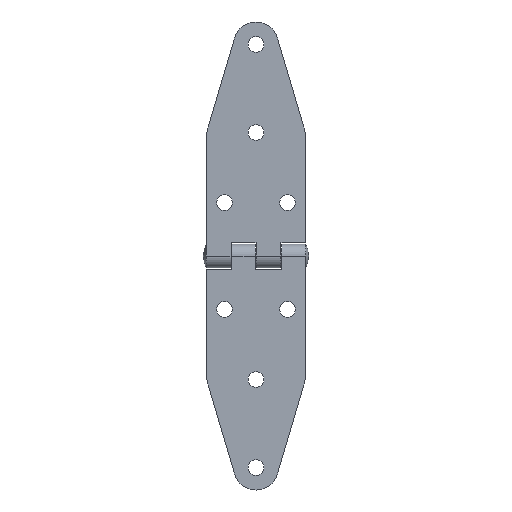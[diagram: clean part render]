
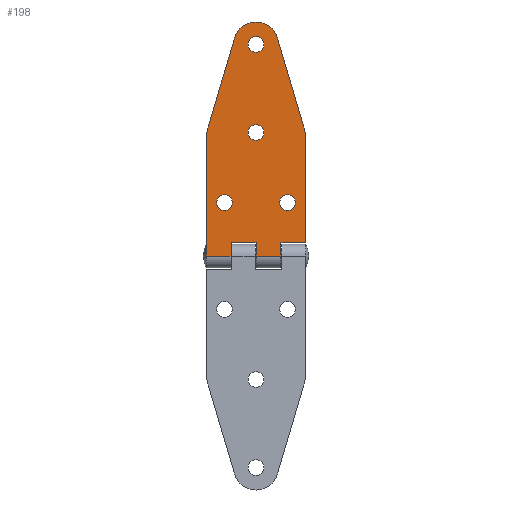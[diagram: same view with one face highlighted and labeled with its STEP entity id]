
A CAD part, front view. The second image highlights one B-rep face of the part: STEP entity #198.
In plain terms, the highlighted planar face has unit normal (0, -1, 0).
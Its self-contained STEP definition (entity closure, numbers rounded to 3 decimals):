
#198=ADVANCED_FACE('',(#364,#365,#366,#367,#368),#369,.T.);
#364=FACE_OUTER_BOUND('',#535,.T.);
#365=FACE_BOUND('',#536,.T.);
#366=FACE_BOUND('',#537,.T.);
#367=FACE_BOUND('',#538,.T.);
#368=FACE_BOUND('',#539,.T.);
#369=PLANE('',#540);
#535=EDGE_LOOP('',(#1181,#1182,#1183,#1184,#1185,#1186,#1187,#1188,#1189,#1190,#1191,#1192,#1193,#1194,#1195));
#536=EDGE_LOOP('',(#1196,#1197));
#537=EDGE_LOOP('',(#1198,#1199));
#538=EDGE_LOOP('',(#1200,#1201));
#539=EDGE_LOOP('',(#1202,#1203));
#540=AXIS2_PLACEMENT_3D('',#1204,#1205,#1206);
#1181=ORIENTED_EDGE('',*,*,#1390,.T.);
#1182=ORIENTED_EDGE('',*,*,#1399,.T.);
#1183=ORIENTED_EDGE('',*,*,#1441,.T.);
#1184=ORIENTED_EDGE('',*,*,#1439,.T.);
#1185=ORIENTED_EDGE('',*,*,#1433,.T.);
#1186=ORIENTED_EDGE('',*,*,#1341,.T.);
#1187=ORIENTED_EDGE('',*,*,#1438,.T.);
#1188=ORIENTED_EDGE('',*,*,#1436,.T.);
#1189=ORIENTED_EDGE('',*,*,#1442,.T.);
#1190=ORIENTED_EDGE('',*,*,#1375,.F.);
#1191=ORIENTED_EDGE('',*,*,#1419,.T.);
#1192=ORIENTED_EDGE('',*,*,#1417,.T.);
#1193=ORIENTED_EDGE('',*,*,#1424,.T.);
#1194=ORIENTED_EDGE('',*,*,#1368,.F.);
#1195=ORIENTED_EDGE('',*,*,#1393,.T.);
#1196=ORIENTED_EDGE('',*,*,#1429,.T.);
#1197=ORIENTED_EDGE('',*,*,#1355,.T.);
#1198=ORIENTED_EDGE('',*,*,#1430,.T.);
#1199=ORIENTED_EDGE('',*,*,#1351,.T.);
#1200=ORIENTED_EDGE('',*,*,#1431,.T.);
#1201=ORIENTED_EDGE('',*,*,#1347,.T.);
#1202=ORIENTED_EDGE('',*,*,#1432,.T.);
#1203=ORIENTED_EDGE('',*,*,#1343,.T.);
#1204=CARTESIAN_POINT('',(38.0,-4.5,89.0));
#1205=DIRECTION('',(0.0,-1.0,0.0));
#1206=DIRECTION('',(0.,0.0,1.0));
#1341=EDGE_CURVE('',#1641,#1645,#1647,.T.);
#1343=EDGE_CURVE('',#1651,#1648,#1652,.T.);
#1347=EDGE_CURVE('',#1659,#1656,#1660,.T.);
#1351=EDGE_CURVE('',#1667,#1664,#1668,.T.);
#1355=EDGE_CURVE('',#1675,#1672,#1676,.T.);
#1368=EDGE_CURVE('',#1699,#1701,#1702,.T.);
#1375=EDGE_CURVE('',#1712,#1714,#1715,.T.);
#1390=EDGE_CURVE('',#1743,#1741,#1744,.T.);
#1393=EDGE_CURVE('',#1699,#1743,#1747,.T.);
#1399=EDGE_CURVE('',#1741,#1754,#1756,.T.);
#1417=EDGE_CURVE('',#1782,#1780,#1783,.T.);
#1419=EDGE_CURVE('',#1712,#1782,#1785,.T.);
#1424=EDGE_CURVE('',#1780,#1701,#1791,.T.);
#1429=EDGE_CURVE('',#1672,#1675,#1797,.T.);
#1430=EDGE_CURVE('',#1664,#1667,#1798,.T.);
#1431=EDGE_CURVE('',#1656,#1659,#1799,.T.);
#1432=EDGE_CURVE('',#1648,#1651,#1800,.T.);
#1433=EDGE_CURVE('',#1801,#1641,#1802,.T.);
#1436=EDGE_CURVE('',#1806,#1804,#1807,.T.);
#1438=EDGE_CURVE('',#1645,#1806,#1809,.T.);
#1439=EDGE_CURVE('',#1810,#1801,#1811,.T.);
#1441=EDGE_CURVE('',#1754,#1810,#1813,.T.);
#1442=EDGE_CURVE('',#1804,#1714,#1814,.T.);
#1641=VERTEX_POINT('',#2072);
#1645=VERTEX_POINT('',#2077);
#1647=CIRCLE('',#2080,8.5);
#1648=VERTEX_POINT('',#2081);
#1651=VERTEX_POINT('',#2085);
#1652=CIRCLE('',#2086,3.0);
#1656=VERTEX_POINT('',#2091);
#1659=VERTEX_POINT('',#2095);
#1660=CIRCLE('',#2096,3.0);
#1664=VERTEX_POINT('',#2101);
#1667=VERTEX_POINT('',#2105);
#1668=CIRCLE('',#2106,3.0);
#1672=VERTEX_POINT('',#2111);
#1675=VERTEX_POINT('',#2115);
#1676=CIRCLE('',#2116,3.0);
#1699=VERTEX_POINT('',#2145);
#1701=VERTEX_POINT('',#2147);
#1702=LINE('',#2148,#2149);
#1712=VERTEX_POINT('',#2161);
#1714=VERTEX_POINT('',#2163);
#1715=LINE('',#2164,#2165);
#1741=VERTEX_POINT('',#2197);
#1743=VERTEX_POINT('',#2200);
#1744=LINE('',#2201,#2202);
#1747=LINE('',#2207,#2208);
#1754=VERTEX_POINT('',#2217);
#1756=LINE('',#2220,#2221);
#1780=VERTEX_POINT('',#2253);
#1782=VERTEX_POINT('',#2256);
#1783=LINE('',#2257,#2258);
#1785=LINE('',#2261,#2262);
#1791=LINE('',#2269,#2270);
#1797=CIRCLE('',#2278,3.0);
#1798=CIRCLE('',#2279,3.0);
#1799=CIRCLE('',#2280,3.0);
#1800=CIRCLE('',#2281,3.0);
#1801=VERTEX_POINT('',#2282);
#1802=CIRCLE('',#2283,8.5);
#1804=VERTEX_POINT('',#2286);
#1806=VERTEX_POINT('',#2289);
#1807=CIRCLE('',#2290,20.0);
#1809=LINE('',#2293,#2294);
#1810=VERTEX_POINT('',#2295);
#1811=LINE('',#2296,#2297);
#1813=CIRCLE('',#2300,20.0);
#1814=LINE('',#2301,#2302);
#2072=CARTESIAN_POINT('',(19.0,-4.5,89.0));
#2077=CARTESIAN_POINT('',(10.851,-4.5,82.917));
#2080=AXIS2_PLACEMENT_3D('',#2544,#2545,#2546);
#2081=CARTESIAN_POINT('',(19.0,-4.5,83.5));
#2085=CARTESIAN_POINT('',(19.0,-4.5,77.5));
#2086=AXIS2_PLACEMENT_3D('',#2548,#2549,#2550);
#2091=CARTESIAN_POINT('',(19.0,-4.5,50.0));
#2095=CARTESIAN_POINT('',(19.0,-4.5,44.0));
#2096=AXIS2_PLACEMENT_3D('',#2556,#2557,#2558);
#2101=CARTESIAN_POINT('',(31.0,-4.5,23.25));
#2105=CARTESIAN_POINT('',(31.0,-4.5,17.25));
#2106=AXIS2_PLACEMENT_3D('',#2564,#2565,#2566);
#2111=CARTESIAN_POINT('',(7.,-4.5,23.25));
#2115=CARTESIAN_POINT('',(7.0,-4.5,17.25));
#2116=AXIS2_PLACEMENT_3D('',#2572,#2573,#2574);
#2145=CARTESIAN_POINT('',(28.5,-4.5,0.));
#2147=CARTESIAN_POINT('',(19.0,-4.5,0.));
#2148=CARTESIAN_POINT('',(38.0,-4.5,0.));
#2149=VECTOR('',#2599,1.0);
#2161=CARTESIAN_POINT('',(9.5,-4.5,0.));
#2163=CARTESIAN_POINT('',(0.,-4.5,0.));
#2164=CARTESIAN_POINT('',(38.0,-4.5,0.));
#2165=VECTOR('',#2614,1.0);
#2197=CARTESIAN_POINT('',(38.0,-4.5,5.0));
#2200=CARTESIAN_POINT('',(28.5,-4.5,5.0));
#2201=CARTESIAN_POINT('',(35.625,-4.5,5.0));
#2202=VECTOR('',#2643,1.0);
#2207=CARTESIAN_POINT('',(28.5,-4.5,44.625));
#2208=VECTOR('',#2646,1.0);
#2217=CARTESIAN_POINT('',(38.0,-4.5,43.436));
#2220=CARTESIAN_POINT('',(38.0,-4.5,0.));
#2221=VECTOR('',#2656,1.0);
#2253=CARTESIAN_POINT('',(19.0,-4.5,5.0));
#2256=CARTESIAN_POINT('',(9.5,-4.5,5.0));
#2257=CARTESIAN_POINT('',(26.125,-4.5,5.0));
#2258=VECTOR('',#2690,1.0);
#2261=CARTESIAN_POINT('',(9.5,-4.5,44.625));
#2262=VECTOR('',#2692,1.0);
#2269=CARTESIAN_POINT('',(19.0,-4.5,44.625));
#2270=VECTOR('',#2703,1.0);
#2278=AXIS2_PLACEMENT_3D('',#2712,#2713,#2714);
#2279=AXIS2_PLACEMENT_3D('',#2715,#2716,#2717);
#2280=AXIS2_PLACEMENT_3D('',#2718,#2719,#2720);
#2281=AXIS2_PLACEMENT_3D('',#2721,#2722,#2723);
#2282=CARTESIAN_POINT('',(27.149,-4.5,82.917));
#2283=AXIS2_PLACEMENT_3D('',#2724,#2725,#2726);
#2286=CARTESIAN_POINT('',(0.,-4.5,43.436));
#2289=CARTESIAN_POINT('',(0.826,-4.5,49.124));
#2290=AXIS2_PLACEMENT_3D('',#2729,#2730,#2731);
#2293=CARTESIAN_POINT('',(7.766,-4.5,72.517));
#2294=VECTOR('',#2733,1.);
#2295=CARTESIAN_POINT('',(37.174,-4.5,49.124));
#2296=CARTESIAN_POINT('',(26.759,-4.5,84.233));
#2297=VECTOR('',#2734,1.0);
#2300=AXIS2_PLACEMENT_3D('',#2736,#2737,#2738);
#2301=CARTESIAN_POINT('',(0.,-4.5,0.));
#2302=VECTOR('',#2739,1.0);
#2544=CARTESIAN_POINT('',(19.0,-4.5,80.5));
#2545=DIRECTION('',(0.0,-1.0,0.0));
#2546=DIRECTION('',(0.,0.0,1.0));
#2548=CARTESIAN_POINT('',(19.0,-4.5,80.5));
#2549=DIRECTION('',(0.0,1.0,0.0));
#2550=DIRECTION('',(0.,0.0,1.0));
#2556=CARTESIAN_POINT('',(19.0,-4.5,47.0));
#2557=DIRECTION('',(0.0,1.0,0.0));
#2558=DIRECTION('',(0.,0.0,1.0));
#2564=CARTESIAN_POINT('',(31.0,-4.5,20.25));
#2565=DIRECTION('',(0.0,1.0,0.0));
#2566=DIRECTION('',(0.,0.0,1.0));
#2572=CARTESIAN_POINT('',(7.0,-4.5,20.25));
#2573=DIRECTION('',(0.0,1.0,0.0));
#2574=DIRECTION('',(0.,0.0,1.0));
#2599=DIRECTION('',(-1.0,0.0,0.));
#2614=DIRECTION('',(-1.0,0.0,0.));
#2643=DIRECTION('',(1.0,0.0,0.));
#2646=DIRECTION('',(0.,0.0,1.0));
#2656=DIRECTION('',(0.,0.0,1.0));
#2690=DIRECTION('',(1.0,0.0,0.));
#2692=DIRECTION('',(0.,0.0,1.0));
#2703=DIRECTION('',(0.,0.0,-1.0));
#2712=CARTESIAN_POINT('',(7.0,-4.5,20.25));
#2713=DIRECTION('',(0.0,1.0,0.0));
#2714=DIRECTION('',(0.,0.0,1.0));
#2715=CARTESIAN_POINT('',(31.0,-4.5,20.25));
#2716=DIRECTION('',(0.0,1.0,0.0));
#2717=DIRECTION('',(0.,0.0,1.0));
#2718=CARTESIAN_POINT('',(19.0,-4.5,47.0));
#2719=DIRECTION('',(0.0,1.0,0.0));
#2720=DIRECTION('',(0.,0.0,1.0));
#2721=CARTESIAN_POINT('',(19.0,-4.5,80.5));
#2722=DIRECTION('',(0.0,1.0,0.0));
#2723=DIRECTION('',(0.,0.0,1.0));
#2724=CARTESIAN_POINT('',(19.0,-4.5,80.5));
#2725=DIRECTION('',(0.0,-1.0,0.0));
#2726=DIRECTION('',(0.,0.0,1.0));
#2729=CARTESIAN_POINT('',(20.0,-4.5,43.436));
#2730=DIRECTION('',(0.0,-1.0,0.0));
#2731=DIRECTION('',(0.,0.0,1.0));
#2733=DIRECTION('',(-0.284,0.0,-0.959));
#2734=DIRECTION('',(-0.284,0.0,0.959));
#2736=CARTESIAN_POINT('',(18.0,-4.5,43.436));
#2737=DIRECTION('',(0.0,-1.0,0.0));
#2738=DIRECTION('',(0.,0.0,1.0));
#2739=DIRECTION('',(0.,0.0,-1.0));
